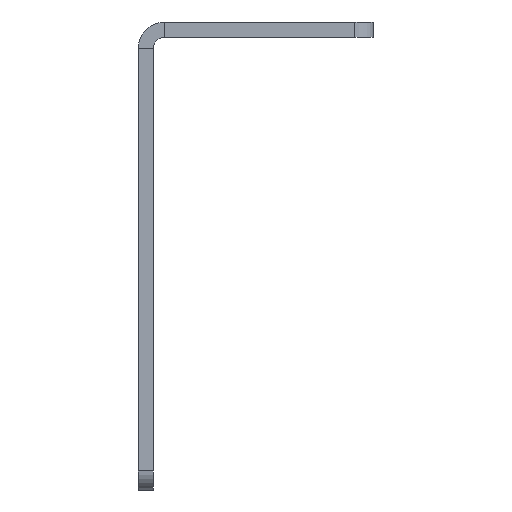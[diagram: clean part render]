
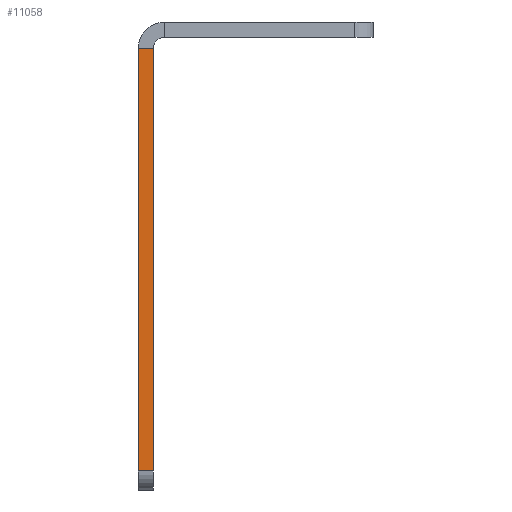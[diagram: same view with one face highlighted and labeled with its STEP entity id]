
A CAD part, front view. The second image highlights one B-rep face of the part: STEP entity #11058.
In plain terms, the highlighted planar face has unit normal (0, -1, 0).
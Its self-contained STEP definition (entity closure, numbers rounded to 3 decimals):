
#564 = VERTEX_POINT ( 'NONE', #37232 ) ;
#2871 = CARTESIAN_POINT ( 'NONE',  ( 0., -751., -3.5 ) ) ;
#3106 = VECTOR ( 'NONE', #36247, 1000. ) ;
#3338 = VERTEX_POINT ( 'NONE', #20793 ) ;
#3580 = VERTEX_POINT ( 'NONE', #37448 ) ;
#9236 = DIRECTION ( 'NONE',  ( 0., 0., 1. ) ) ;
#9782 = DIRECTION ( 'NONE',  ( 0., 1., 0. ) ) ;
#11058 = ADVANCED_FACE ( 'NONE', ( #25236 ), #37646, .F. ) ;
#12638 = EDGE_CURVE ( 'NONE', #3338, #23562, #39328, .T. ) ;
#14234 = EDGE_CURVE ( 'NONE', #564, #3580, #36842, .T. ) ;
#15216 = DIRECTION ( 'NONE',  ( 1., 0., 0. ) ) ;
#15369 = VECTOR ( 'NONE', #33231, 1000. ) ;
#15549 = EDGE_LOOP ( 'NONE', ( #30624, #35805, #18765, #22884 ) ) ;
#16216 = VECTOR ( 'NONE', #9236, 1000. ) ;
#18529 = VECTOR ( 'NONE', #33818, 1000. ) ;
#18765 = ORIENTED_EDGE ( 'NONE', *, *, #32118, .T. ) ;
#19132 = CARTESIAN_POINT ( 'NONE',  ( 3.5, -751., -3.5 ) ) ;
#20793 = CARTESIAN_POINT ( 'NONE',  ( 2., -751., -3.5 ) ) ;
#22884 = ORIENTED_EDGE ( 'NONE', *, *, #12638, .T. ) ;
#23562 = VERTEX_POINT ( 'NONE', #2871 ) ;
#24058 = CARTESIAN_POINT ( 'NONE',  ( 2., -751., -61.5 ) ) ;
#25236 = FACE_OUTER_BOUND ( 'NONE', #15549, .T. ) ;
#26907 = LINE ( 'NONE', #24058, #18529 ) ;
#27687 = AXIS2_PLACEMENT_3D ( 'NONE', #19132, #9782, #15216 ) ;
#30624 = ORIENTED_EDGE ( 'NONE', *, *, #37022, .F. ) ;
#32118 = EDGE_CURVE ( 'NONE', #3580, #3338, #26907, .T. ) ;
#33231 = DIRECTION ( 'NONE',  ( -1., 0., 0. ) ) ;
#33386 = CARTESIAN_POINT ( 'NONE',  ( 2., -751., -59. ) ) ;
#33818 = DIRECTION ( 'NONE',  ( 0., 0., 1. ) ) ;
#34633 = CARTESIAN_POINT ( 'NONE',  ( 0., -751., -61.5 ) ) ;
#35805 = ORIENTED_EDGE ( 'NONE', *, *, #14234, .T. ) ;
#36247 = DIRECTION ( 'NONE',  ( 1., 0., 0. ) ) ;
#36285 = CARTESIAN_POINT ( 'NONE',  ( 2., -751., -3.5 ) ) ;
#36842 = LINE ( 'NONE', #33386, #3106 ) ;
#37022 = EDGE_CURVE ( 'NONE', #564, #23562, #37288, .T. ) ;
#37232 = CARTESIAN_POINT ( 'NONE',  ( 0., -751., -59. ) ) ;
#37288 = LINE ( 'NONE', #34633, #16216 ) ;
#37448 = CARTESIAN_POINT ( 'NONE',  ( 2., -751., -59. ) ) ;
#37646 = PLANE ( 'NONE',  #27687 ) ;
#39328 = LINE ( 'NONE', #36285, #15369 ) ;
